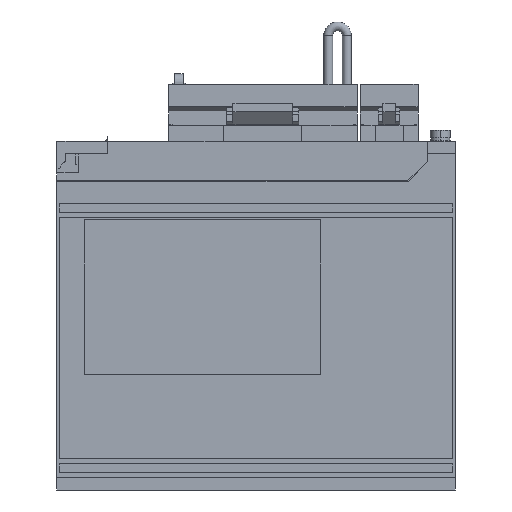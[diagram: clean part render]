
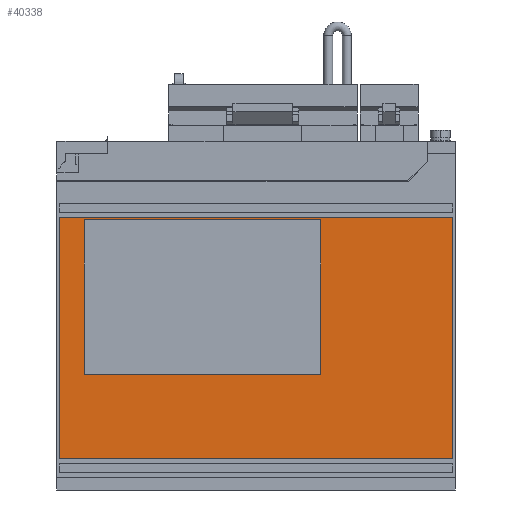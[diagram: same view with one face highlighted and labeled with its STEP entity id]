
A CAD part, left-side view. The second image highlights one B-rep face of the part: STEP entity #40338.
In plain terms, the highlighted planar face has unit normal (-1, 0, 0).
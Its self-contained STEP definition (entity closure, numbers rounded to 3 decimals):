
#15625 = CARTESIAN_POINT ( 'NONE',  ( -34.7, -154., 12.5 ) ) ;
#15626 = DIRECTION ( 'NONE',  ( 0., 0., 1. ) ) ;
#15627 = VECTOR ( 'NONE', #15626, 1000. ) ;
#15628 = CARTESIAN_POINT ( 'NONE',  ( -34.7, -154., 12.5 ) ) ;
#15629 = LINE ( 'NONE', #15628, #15627 ) ;
#15641 = CARTESIAN_POINT ( 'NONE',  ( -34.7, -154., 109.5 ) ) ;
#15689 = CARTESIAN_POINT ( 'NONE',  ( -34.7, -101., 108.5 ) ) ;
#15690 = CARTESIAN_POINT ( 'NONE',  ( -34.7, -6., 108.5 ) ) ;
#15691 = DIRECTION ( 'NONE',  ( 0., 0., -1. ) ) ;
#15692 = VECTOR ( 'NONE', #15691, 1000. ) ;
#15693 = CARTESIAN_POINT ( 'NONE',  ( -34.7, -6., 109.5 ) ) ;
#15694 = LINE ( 'NONE', #15693, #15692 ) ;
#15695 = CARTESIAN_POINT ( 'NONE',  ( -34.7, -101., 46.5 ) ) ;
#15696 = CARTESIAN_POINT ( 'NONE',  ( -34.7, -6., 46.5 ) ) ;
#15697 = DIRECTION ( 'NONE',  ( 0., -1., 0. ) ) ;
#15698 = VECTOR ( 'NONE', #15697, 1000. ) ;
#15699 = CARTESIAN_POINT ( 'NONE',  ( -34.7, -154., 46.5 ) ) ;
#15700 = LINE ( 'NONE', #15699, #15698 ) ;
#15701 = DIRECTION ( 'NONE',  ( 0., 0., 1. ) ) ;
#15702 = DIRECTION ( 'NONE',  ( -1., 0., 0. ) ) ;
#15703 = CARTESIAN_POINT ( 'NONE',  ( -34.7, -154., 109.5 ) ) ;
#15704 = AXIS2_PLACEMENT_3D ( 'NONE', #15703, #15702, #15701 ) ;
#15705 = PLANE ( 'NONE',  #15704 ) ;
#15706 = FACE_OUTER_BOUND ( 'NONE', #40325, .T. ) ;
#15707 = FACE_BOUND ( 'NONE', #40339, .T. ) ;
#15708 = DIRECTION ( 'NONE',  ( 0., 0., -1. ) ) ;
#15709 = VECTOR ( 'NONE', #15708, 1000. ) ;
#15710 = CARTESIAN_POINT ( 'NONE',  ( -34.7, 4., 12.5 ) ) ;
#15711 = LINE ( 'NONE', #15710, #15709 ) ;
#15722 = DIRECTION ( 'NONE',  ( 0., 1., 0. ) ) ;
#15723 = VECTOR ( 'NONE', #15722, 1000. ) ;
#15725 = CARTESIAN_POINT ( 'NONE',  ( -34.7, 4., 109.5 ) ) ;
#15726 = LINE ( 'NONE', #15725, #15723 ) ;
#15727 = CARTESIAN_POINT ( 'NONE',  ( -34.7, 4., 109.5 ) ) ;
#15742 = CARTESIAN_POINT ( 'NONE',  ( -34.7, 4., 12.5 ) ) ;
#15743 = DIRECTION ( 'NONE',  ( 0., -1., 0. ) ) ;
#15744 = VECTOR ( 'NONE', #15743, 1000. ) ;
#15745 = CARTESIAN_POINT ( 'NONE',  ( -34.7, 4., 12.5 ) ) ;
#15746 = LINE ( 'NONE', #15745, #15744 ) ;
#15787 = DIRECTION ( 'NONE',  ( 0., 0., 1. ) ) ;
#15788 = VECTOR ( 'NONE', #15787, 1000. ) ;
#15789 = CARTESIAN_POINT ( 'NONE',  ( -34.7, -101., 109.5 ) ) ;
#15790 = LINE ( 'NONE', #15789, #15788 ) ;
#15791 = DIRECTION ( 'NONE',  ( 0., 1., 0. ) ) ;
#15792 = VECTOR ( 'NONE', #15791, 1000. ) ;
#15793 = CARTESIAN_POINT ( 'NONE',  ( -34.7, -154., 108.5 ) ) ;
#15794 = LINE ( 'NONE', #15793, #15792 ) ;
#40287 = VERTEX_POINT ( 'NONE', #15641 ) ;
#40295 = EDGE_CURVE ( 'NONE', #40296, #40287, #15629, .T. ) ;
#40296 = VERTEX_POINT ( 'NONE', #15625 ) ;
#40325 = EDGE_LOOP ( 'NONE', ( #40326, #40327, #40328, #40329 ) ) ;
#40326 = ORIENTED_EDGE ( 'NONE', *, *, #40365, .T. ) ;
#40327 = ORIENTED_EDGE ( 'NONE', *, *, #40336, .T. ) ;
#40328 = ORIENTED_EDGE ( 'NONE', *, *, #40355, .T. ) ;
#40329 = ORIENTED_EDGE ( 'NONE', *, *, #40295, .T. ) ;
#40336 = EDGE_CURVE ( 'NONE', #40363, #40356, #15711, .T. ) ;
#40338 = ADVANCED_FACE ( 'NONE', ( #15707, #15706 ), #15705, .T. ) ;
#40339 = EDGE_LOOP ( 'NONE', ( #40340, #40344, #40400, #40402 ) ) ;
#40340 = ORIENTED_EDGE ( 'NONE', *, *, #40341, .F. ) ;
#40341 = EDGE_CURVE ( 'NONE', #40342, #40343, #15700, .T. ) ;
#40342 = VERTEX_POINT ( 'NONE', #15696 ) ;
#40343 = VERTEX_POINT ( 'NONE', #15695 ) ;
#40344 = ORIENTED_EDGE ( 'NONE', *, *, #40345, .F. ) ;
#40345 = EDGE_CURVE ( 'NONE', #40346, #40342, #15694, .T. ) ;
#40346 = VERTEX_POINT ( 'NONE', #15690 ) ;
#40347 = VERTEX_POINT ( 'NONE', #15689 ) ;
#40355 = EDGE_CURVE ( 'NONE', #40356, #40296, #15746, .T. ) ;
#40356 = VERTEX_POINT ( 'NONE', #15742 ) ;
#40363 = VERTEX_POINT ( 'NONE', #15727 ) ;
#40365 = EDGE_CURVE ( 'NONE', #40287, #40363, #15726, .T. ) ;
#40400 = ORIENTED_EDGE ( 'NONE', *, *, #40401, .F. ) ;
#40401 = EDGE_CURVE ( 'NONE', #40347, #40346, #15794, .T. ) ;
#40402 = ORIENTED_EDGE ( 'NONE', *, *, #40403, .F. ) ;
#40403 = EDGE_CURVE ( 'NONE', #40343, #40347, #15790, .T. ) ;
